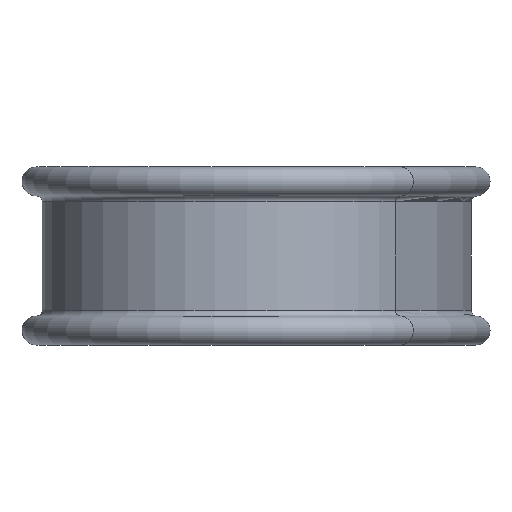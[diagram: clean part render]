
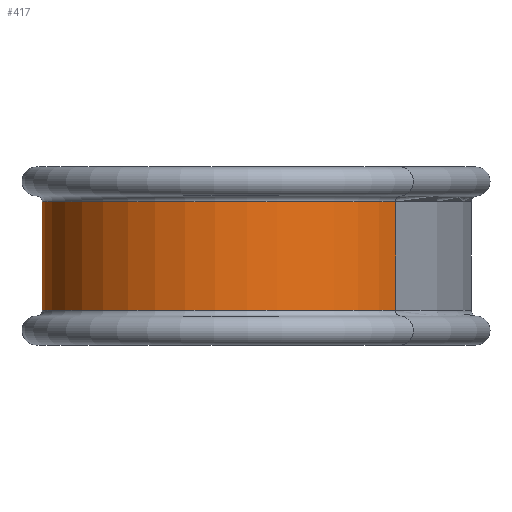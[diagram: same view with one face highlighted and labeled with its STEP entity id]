
A CAD part, front view. The second image highlights one B-rep face of the part: STEP entity #417.
In plain terms, the highlighted cylindrical face has radius 9.7 mm (diameter 19.4 mm), a partial arc.
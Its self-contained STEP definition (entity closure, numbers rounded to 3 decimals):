
#17=LINE('',#746,#33);
#18=LINE('',#748,#34);
#33=VECTOR('',#572,10.);
#34=VECTOR('',#573,10.);
#49=CYLINDRICAL_SURFACE('',#479,9.7);
#63=FACE_OUTER_BOUND('',#95,.T.);
#95=EDGE_LOOP('',(#277,#278,#279,#280));
#131=CIRCLE('',#478,9.7);
#132=CIRCLE('',#480,9.7);
#177=VERTEX_POINT('',#739);
#178=VERTEX_POINT('',#741);
#179=VERTEX_POINT('',#745);
#180=VERTEX_POINT('',#747);
#211=EDGE_CURVE('',#177,#178,#131,.T.);
#212=EDGE_CURVE('',#179,#177,#17,.T.);
#213=EDGE_CURVE('',#180,#178,#18,.T.);
#214=EDGE_CURVE('',#179,#180,#132,.T.);
#277=ORIENTED_EDGE('',*,*,#212,.T.);
#278=ORIENTED_EDGE('',*,*,#211,.T.);
#279=ORIENTED_EDGE('',*,*,#213,.F.);
#280=ORIENTED_EDGE('',*,*,#214,.F.);
#417=ADVANCED_FACE('',(#63),#49,.T.);
#478=AXIS2_PLACEMENT_3D('',#743,#568,#569);
#479=AXIS2_PLACEMENT_3D('',#744,#570,#571);
#480=AXIS2_PLACEMENT_3D('',#749,#574,#575);
#568=DIRECTION('center_axis',(0.,0.,-1.));
#569=DIRECTION('ref_axis',(0.886,-0.464,0.));
#570=DIRECTION('center_axis',(0.,0.,-1.));
#571=DIRECTION('ref_axis',(1.,0.,0.));
#572=DIRECTION('',(0.,0.,1.));
#573=DIRECTION('',(0.,0.,1.));
#574=DIRECTION('center_axis',(0.,0.,-1.));
#575=DIRECTION('ref_axis',(0.886,-0.464,0.));
#739=CARTESIAN_POINT('',(7.18,-15.998,2.817));
#741=CARTESIAN_POINT('',(-11.114,-11.5,2.817));
#743=CARTESIAN_POINT('Origin',(-1.414,-11.5,2.817));
#744=CARTESIAN_POINT('Origin',(-1.414,-11.5,0.));
#745=CARTESIAN_POINT('',(7.18,-15.998,-2.817));
#746=CARTESIAN_POINT('',(7.18,-15.998,-2.817));
#747=CARTESIAN_POINT('',(-11.114,-11.5,-2.817));
#748=CARTESIAN_POINT('',(-11.114,-11.5,-2.817));
#749=CARTESIAN_POINT('Origin',(-1.414,-11.5,-2.817));
